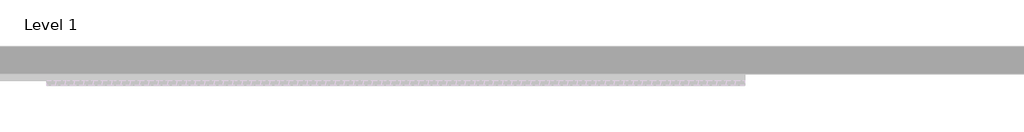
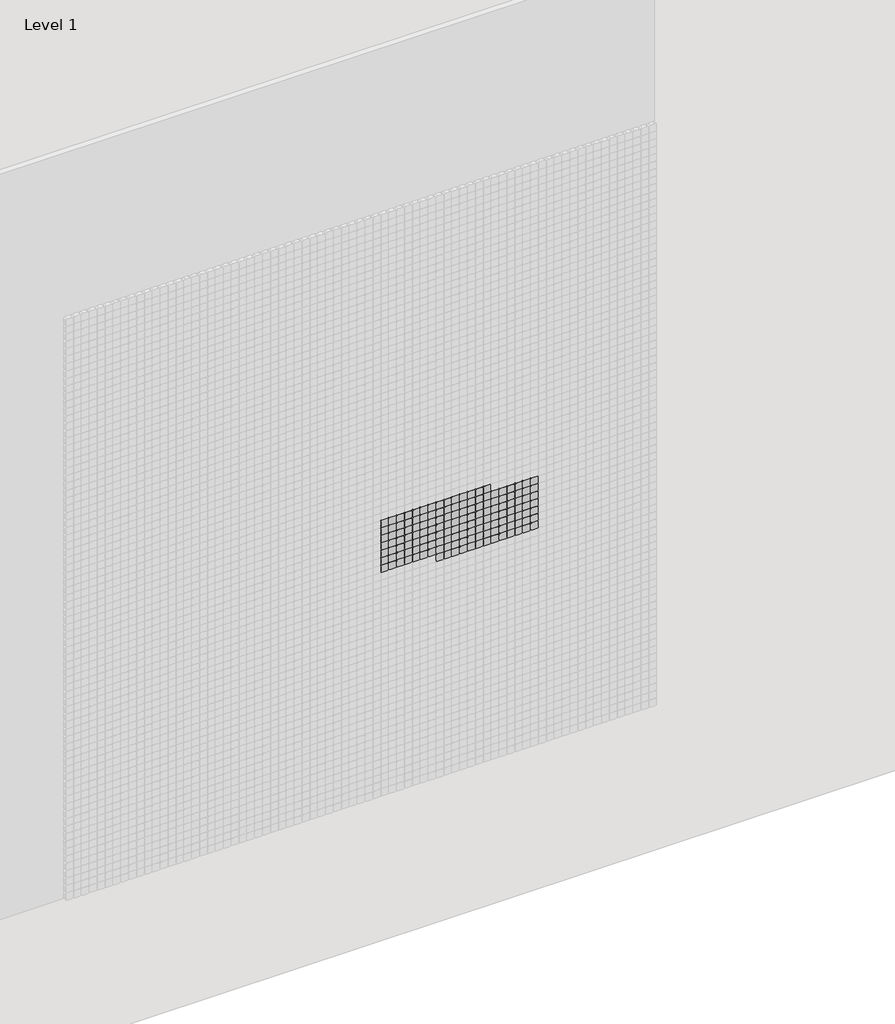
# One storey, part 57 of 71: 147 proxies.
"""IFC4 building model written with IfcOpenShell, lengths in millimetres."""

from ifc_helpers import new_model, si_unit, origin, place, context, project, spatial, transform, mapped, element, save
from components import generic_models_afde289c

model = new_model("IFC4")

# Units and contexts
model_context = context("Model", 3, world=origin())
ifc_project = project(units=[si_unit("LENGTHUNIT", "METRE", prefix="MILLI")], contexts=[model_context])

# Site, building, storey
site = spatial("IfcSite", under=ifc_project)
building = spatial("IfcBuilding", under=site)
storey = spatial("IfcBuildingStorey", under=building, Name="Level 1", Elevation=0.0)

# Proxies
placement = place(None, origin())
generic_models_shape = generic_models_afde289c(model_context)
element("IfcBuildingElementProxy", 1, Name="Pixel_M : Pixel_M", ObjectType="Pixel_M : Pixel_M", at=placement, inside=storey, context=model_context, shape_type="MappedRepresentation", body=[
    mapped(generic_models_shape, transform((8662.4280941, -75.0, 2816.3566215), x_axis=(1.0, 0.0, 0.0), y_axis=(0.0, 0.0, 1.0), z_axis=(0.0, -1.0, 0.0))),
])
element("IfcBuildingElementProxy", 2, Name="Pixel_M : Pixel_M", ObjectType="Pixel_M : Pixel_M", at=placement, inside=storey, context=model_context, shape_type="MappedRepresentation", body=[
    mapped(generic_models_shape, transform((8612.4280941, -75.0, 2816.3566215), x_axis=(1.0, 0.0, 0.0), y_axis=(0.0, 0.0, 1.0), z_axis=(0.0, -1.0, 0.0))),
])
element("IfcBuildingElementProxy", 3, Name="Pixel_M : Pixel_M", ObjectType="Pixel_M : Pixel_M", at=placement, inside=storey, context=model_context, shape_type="MappedRepresentation", body=[
    mapped(generic_models_shape, transform((8562.4280941, -75.0, 2816.3566215), x_axis=(1.0, 0.0, 0.0), y_axis=(0.0, 0.0, 1.0), z_axis=(0.0, -1.0, 0.0))),
])
element("IfcBuildingElementProxy", 4, Name="Pixel_M : Pixel_M", ObjectType="Pixel_M : Pixel_M", at=placement, inside=storey, context=model_context, shape_type="MappedRepresentation", body=[
    mapped(generic_models_shape, transform((8512.4280941, -75.0, 2816.3566215), x_axis=(1.0, 0.0, 0.0), y_axis=(0.0, 0.0, 1.0), z_axis=(0.0, -1.0, 0.0))),
])
element("IfcBuildingElementProxy", 5, Name="Pixel_M : Pixel_M", ObjectType="Pixel_M : Pixel_M", at=placement, inside=storey, context=model_context, shape_type="MappedRepresentation", body=[
    mapped(generic_models_shape, transform((8462.4280941, -75.0, 2816.3566215), x_axis=(1.0, 0.0, 0.0), y_axis=(0.0, 0.0, 1.0), z_axis=(0.0, -1.0, 0.0))),
])
element("IfcBuildingElementProxy", 6, Name="Pixel_M : Pixel_M", ObjectType="Pixel_M : Pixel_M", at=placement, inside=storey, context=model_context, shape_type="MappedRepresentation", body=[
    mapped(generic_models_shape, transform((8412.4280941, -75.0, 2816.3566215), x_axis=(1.0, 0.0, 0.0), y_axis=(0.0, 0.0, 1.0), z_axis=(0.0, -1.0, 0.0))),
])
element("IfcBuildingElementProxy", 7, Name="Pixel_M : Pixel_M", ObjectType="Pixel_M : Pixel_M", at=placement, inside=storey, context=model_context, shape_type="MappedRepresentation", body=[
    mapped(generic_models_shape, transform((8362.4280941, -75.0, 2816.3566215), x_axis=(1.0, 0.0, 0.0), y_axis=(0.0, 0.0, 1.0), z_axis=(0.0, -1.0, 0.0))),
])
element("IfcBuildingElementProxy", 8, Name="Pixel_M : Pixel_M", ObjectType="Pixel_M : Pixel_M", at=placement, inside=storey, context=model_context, shape_type="MappedRepresentation", body=[
    mapped(generic_models_shape, transform((8312.4280941, -75.0, 2816.3566215), x_axis=(1.0, 0.0, 0.0), y_axis=(0.0, 0.0, 1.0), z_axis=(0.0, -1.0, 0.0))),
])
element("IfcBuildingElementProxy", 9, Name="Pixel_M : Pixel_M", ObjectType="Pixel_M : Pixel_M", at=placement, inside=storey, context=model_context, shape_type="MappedRepresentation", body=[
    mapped(generic_models_shape, transform((8262.4280941, -75.0, 2816.3566215), x_axis=(1.0, 0.0, 0.0), y_axis=(0.0, 0.0, 1.0), z_axis=(0.0, -1.0, 0.0))),
])
element("IfcBuildingElementProxy", 10, Name="Pixel_M : Pixel_M", ObjectType="Pixel_M : Pixel_M", at=placement, inside=storey, context=model_context, shape_type="MappedRepresentation", body=[
    mapped(generic_models_shape, transform((8212.4280941, -75.0, 2816.3566215), x_axis=(1.0, 0.0, 0.0), y_axis=(0.0, 0.0, 1.0), z_axis=(0.0, -1.0, 0.0))),
])
element("IfcBuildingElementProxy", 11, Name="Pixel_M : Pixel_M", ObjectType="Pixel_M : Pixel_M", at=placement, inside=storey, context=model_context, shape_type="MappedRepresentation", body=[
    mapped(generic_models_shape, transform((8162.4280941, -75.0, 2816.3566215), x_axis=(1.0, 0.0, 0.0), y_axis=(0.0, 0.0, 1.0), z_axis=(0.0, -1.0, 0.0))),
])
element("IfcBuildingElementProxy", 12, Name="Pixel_M : Pixel_M", ObjectType="Pixel_M : Pixel_M", at=placement, inside=storey, context=model_context, shape_type="MappedRepresentation", body=[
    mapped(generic_models_shape, transform((8112.4280941, -75.0, 2816.3566215), x_axis=(1.0, 0.0, 0.0), y_axis=(0.0, 0.0, 1.0), z_axis=(0.0, -1.0, 0.0))),
])
element("IfcBuildingElementProxy", 13, Name="Pixel_M : Pixel_M", ObjectType="Pixel_M : Pixel_M", at=placement, inside=storey, context=model_context, shape_type="MappedRepresentation", body=[
    mapped(generic_models_shape, transform((8062.4280941, -75.0, 2816.3566215), x_axis=(1.0, 0.0, 0.0), y_axis=(0.0, 0.0, 1.0), z_axis=(0.0, -1.0, 0.0))),
])
element("IfcBuildingElementProxy", 14, Name="Pixel_M : Pixel_M", ObjectType="Pixel_M : Pixel_M", at=placement, inside=storey, context=model_context, shape_type="MappedRepresentation", body=[
    mapped(generic_models_shape, transform((8012.4280941, -75.0, 2816.3566215), x_axis=(1.0, 0.0, 0.0), y_axis=(0.0, 0.0, 1.0), z_axis=(0.0, -1.0, 0.0))),
])
element("IfcBuildingElementProxy", 15, Name="Pixel_M : Pixel_M", ObjectType="Pixel_M : Pixel_M", at=placement, inside=storey, context=model_context, shape_type="MappedRepresentation", body=[
    mapped(generic_models_shape, transform((8962.4280941, -75.0, 2766.3566215), x_axis=(1.0, 0.0, 0.0), y_axis=(0.0, 0.0, 1.0), z_axis=(0.0, -1.0, 0.0))),
])
element("IfcBuildingElementProxy", 16, Name="Pixel_M : Pixel_M", ObjectType="Pixel_M : Pixel_M", at=placement, inside=storey, context=model_context, shape_type="MappedRepresentation", body=[
    mapped(generic_models_shape, transform((8912.4280941, -75.0, 2766.3566215), x_axis=(1.0, 0.0, 0.0), y_axis=(0.0, 0.0, 1.0), z_axis=(0.0, -1.0, 0.0))),
])
element("IfcBuildingElementProxy", 17, Name="Pixel_M : Pixel_M", ObjectType="Pixel_M : Pixel_M", at=placement, inside=storey, context=model_context, shape_type="MappedRepresentation", body=[
    mapped(generic_models_shape, transform((8862.4280941, -75.0, 2766.3566215), x_axis=(1.0, 0.0, 0.0), y_axis=(0.0, 0.0, 1.0), z_axis=(0.0, -1.0, 0.0))),
])
element("IfcBuildingElementProxy", 18, Name="Pixel_M : Pixel_M", ObjectType="Pixel_M : Pixel_M", at=placement, inside=storey, context=model_context, shape_type="MappedRepresentation", body=[
    mapped(generic_models_shape, transform((8812.4280941, -75.0, 2766.3566215), x_axis=(1.0, 0.0, 0.0), y_axis=(0.0, 0.0, 1.0), z_axis=(0.0, -1.0, 0.0))),
])
element("IfcBuildingElementProxy", 19, Name="Pixel_M : Pixel_M", ObjectType="Pixel_M : Pixel_M", at=placement, inside=storey, context=model_context, shape_type="MappedRepresentation", body=[
    mapped(generic_models_shape, transform((8762.4280941, -75.0, 2766.3566215), x_axis=(1.0, 0.0, 0.0), y_axis=(0.0, 0.0, 1.0), z_axis=(0.0, -1.0, 0.0))),
])
element("IfcBuildingElementProxy", 20, Name="Pixel_M : Pixel_M", ObjectType="Pixel_M : Pixel_M", at=placement, inside=storey, context=model_context, shape_type="MappedRepresentation", body=[
    mapped(generic_models_shape, transform((8712.4280941, -75.0, 2766.3566215), x_axis=(1.0, 0.0, 0.0), y_axis=(0.0, 0.0, 1.0), z_axis=(0.0, -1.0, 0.0))),
])
element("IfcBuildingElementProxy", 21, Name="Pixel_M : Pixel_M", ObjectType="Pixel_M : Pixel_M", at=placement, inside=storey, context=model_context, shape_type="MappedRepresentation", body=[
    mapped(generic_models_shape, transform((8662.4280941, -75.0, 2766.3566215), x_axis=(1.0, 0.0, 0.0), y_axis=(0.0, 0.0, 1.0), z_axis=(0.0, -1.0, 0.0))),
])
element("IfcBuildingElementProxy", 22, Name="Pixel_M : Pixel_M", ObjectType="Pixel_M : Pixel_M", at=placement, inside=storey, context=model_context, shape_type="MappedRepresentation", body=[
    mapped(generic_models_shape, transform((8612.4280941, -75.0, 2766.3566215), x_axis=(1.0, 0.0, 0.0), y_axis=(0.0, 0.0, 1.0), z_axis=(0.0, -1.0, 0.0))),
])
element("IfcBuildingElementProxy", 23, Name="Pixel_M : Pixel_M", ObjectType="Pixel_M : Pixel_M", at=placement, inside=storey, context=model_context, shape_type="MappedRepresentation", body=[
    mapped(generic_models_shape, transform((8562.4280941, -75.0, 2766.3566215), x_axis=(1.0, 0.0, 0.0), y_axis=(0.0, 0.0, 1.0), z_axis=(0.0, -1.0, 0.0))),
])
element("IfcBuildingElementProxy", 24, Name="Pixel_M : Pixel_M", ObjectType="Pixel_M : Pixel_M", at=placement, inside=storey, context=model_context, shape_type="MappedRepresentation", body=[
    mapped(generic_models_shape, transform((8512.4280941, -75.0, 2766.3566215), x_axis=(1.0, 0.0, 0.0), y_axis=(0.0, 0.0, 1.0), z_axis=(0.0, -1.0, 0.0))),
])
element("IfcBuildingElementProxy", 25, Name="Pixel_M : Pixel_M", ObjectType="Pixel_M : Pixel_M", at=placement, inside=storey, context=model_context, shape_type="MappedRepresentation", body=[
    mapped(generic_models_shape, transform((8462.4280941, -75.0, 2766.3566215), x_axis=(1.0, 0.0, 0.0), y_axis=(0.0, 0.0, 1.0), z_axis=(0.0, -1.0, 0.0))),
])
element("IfcBuildingElementProxy", 26, Name="Pixel_M : Pixel_M", ObjectType="Pixel_M : Pixel_M", at=placement, inside=storey, context=model_context, shape_type="MappedRepresentation", body=[
    mapped(generic_models_shape, transform((8412.4280941, -75.0, 2766.3566215), x_axis=(1.0, 0.0, 0.0), y_axis=(0.0, 0.0, 1.0), z_axis=(0.0, -1.0, 0.0))),
])
element("IfcBuildingElementProxy", 27, Name="Pixel_M : Pixel_M", ObjectType="Pixel_M : Pixel_M", at=placement, inside=storey, context=model_context, shape_type="MappedRepresentation", body=[
    mapped(generic_models_shape, transform((8362.4280941, -75.0, 2766.3566215), x_axis=(1.0, 0.0, 0.0), y_axis=(0.0, 0.0, 1.0), z_axis=(0.0, -1.0, 0.0))),
])
element("IfcBuildingElementProxy", 28, Name="Pixel_M : Pixel_M", ObjectType="Pixel_M : Pixel_M", at=placement, inside=storey, context=model_context, shape_type="MappedRepresentation", body=[
    mapped(generic_models_shape, transform((8312.4280941, -75.0, 2766.3566215), x_axis=(1.0, 0.0, 0.0), y_axis=(0.0, 0.0, 1.0), z_axis=(0.0, -1.0, 0.0))),
])
element("IfcBuildingElementProxy", 29, Name="Pixel_M : Pixel_M", ObjectType="Pixel_M : Pixel_M", at=placement, inside=storey, context=model_context, shape_type="MappedRepresentation", body=[
    mapped(generic_models_shape, transform((8262.4280941, -75.0, 2766.3566215), x_axis=(1.0, 0.0, 0.0), y_axis=(0.0, 0.0, 1.0), z_axis=(0.0, -1.0, 0.0))),
])
element("IfcBuildingElementProxy", 30, Name="Pixel_M : Pixel_M", ObjectType="Pixel_M : Pixel_M", at=placement, inside=storey, context=model_context, shape_type="MappedRepresentation", body=[
    mapped(generic_models_shape, transform((8212.4280941, -75.0, 2766.3566215), x_axis=(1.0, 0.0, 0.0), y_axis=(0.0, 0.0, 1.0), z_axis=(0.0, -1.0, 0.0))),
])
element("IfcBuildingElementProxy", 31, Name="Pixel_M : Pixel_M", ObjectType="Pixel_M : Pixel_M", at=placement, inside=storey, context=model_context, shape_type="MappedRepresentation", body=[
    mapped(generic_models_shape, transform((8162.4280941, -75.0, 2766.3566215), x_axis=(1.0, 0.0, 0.0), y_axis=(0.0, 0.0, 1.0), z_axis=(0.0, -1.0, 0.0))),
])
element("IfcBuildingElementProxy", 32, Name="Pixel_M : Pixel_M", ObjectType="Pixel_M : Pixel_M", at=placement, inside=storey, context=model_context, shape_type="MappedRepresentation", body=[
    mapped(generic_models_shape, transform((8112.4280941, -75.0, 2766.3566215), x_axis=(1.0, 0.0, 0.0), y_axis=(0.0, 0.0, 1.0), z_axis=(0.0, -1.0, 0.0))),
])
element("IfcBuildingElementProxy", 33, Name="Pixel_M : Pixel_M", ObjectType="Pixel_M : Pixel_M", at=placement, inside=storey, context=model_context, shape_type="MappedRepresentation", body=[
    mapped(generic_models_shape, transform((8062.4280941, -75.0, 2766.3566215), x_axis=(1.0, 0.0, 0.0), y_axis=(0.0, 0.0, 1.0), z_axis=(0.0, -1.0, 0.0))),
])
element("IfcBuildingElementProxy", 34, Name="Pixel_M : Pixel_M", ObjectType="Pixel_M : Pixel_M", at=placement, inside=storey, context=model_context, shape_type="MappedRepresentation", body=[
    mapped(generic_models_shape, transform((8012.4280941, -75.0, 2766.3566215), x_axis=(1.0, 0.0, 0.0), y_axis=(0.0, 0.0, 1.0), z_axis=(0.0, -1.0, 0.0))),
])
element("IfcBuildingElementProxy", 35, Name="Pixel_M : Pixel_M", ObjectType="Pixel_M : Pixel_M", at=placement, inside=storey, context=model_context, shape_type="MappedRepresentation", body=[
    mapped(generic_models_shape, transform((8962.4280941, -75.0, 2716.3566215), x_axis=(1.0, 0.0, 0.0), y_axis=(0.0, 0.0, 1.0), z_axis=(0.0, -1.0, 0.0))),
])
element("IfcBuildingElementProxy", 36, Name="Pixel_M : Pixel_M", ObjectType="Pixel_M : Pixel_M", at=placement, inside=storey, context=model_context, shape_type="MappedRepresentation", body=[
    mapped(generic_models_shape, transform((8912.4280941, -75.0, 2716.3566215), x_axis=(1.0, 0.0, 0.0), y_axis=(0.0, 0.0, 1.0), z_axis=(0.0, -1.0, 0.0))),
])
element("IfcBuildingElementProxy", 37, Name="Pixel_M : Pixel_M", ObjectType="Pixel_M : Pixel_M", at=placement, inside=storey, context=model_context, shape_type="MappedRepresentation", body=[
    mapped(generic_models_shape, transform((8862.4280941, -75.0, 2716.3566215), x_axis=(1.0, 0.0, 0.0), y_axis=(0.0, 0.0, 1.0), z_axis=(0.0, -1.0, 0.0))),
])
element("IfcBuildingElementProxy", 38, Name="Pixel_M : Pixel_M", ObjectType="Pixel_M : Pixel_M", at=placement, inside=storey, context=model_context, shape_type="MappedRepresentation", body=[
    mapped(generic_models_shape, transform((8812.4280941, -75.0, 2716.3566215), x_axis=(1.0, 0.0, 0.0), y_axis=(0.0, 0.0, 1.0), z_axis=(0.0, -1.0, 0.0))),
])
element("IfcBuildingElementProxy", 39, Name="Pixel_M : Pixel_M", ObjectType="Pixel_M : Pixel_M", at=placement, inside=storey, context=model_context, shape_type="MappedRepresentation", body=[
    mapped(generic_models_shape, transform((8762.4280941, -75.0, 2716.3566215), x_axis=(1.0, 0.0, 0.0), y_axis=(0.0, 0.0, 1.0), z_axis=(0.0, -1.0, 0.0))),
])
element("IfcBuildingElementProxy", 40, Name="Pixel_M : Pixel_M", ObjectType="Pixel_M : Pixel_M", at=placement, inside=storey, context=model_context, shape_type="MappedRepresentation", body=[
    mapped(generic_models_shape, transform((8712.4280941, -75.0, 2716.3566215), x_axis=(1.0, 0.0, 0.0), y_axis=(0.0, 0.0, 1.0), z_axis=(0.0, -1.0, 0.0))),
])
element("IfcBuildingElementProxy", 41, Name="Pixel_M : Pixel_M", ObjectType="Pixel_M : Pixel_M", at=placement, inside=storey, context=model_context, shape_type="MappedRepresentation", body=[
    mapped(generic_models_shape, transform((8662.4280941, -75.0, 2716.3566215), x_axis=(1.0, 0.0, 0.0), y_axis=(0.0, 0.0, 1.0), z_axis=(0.0, -1.0, 0.0))),
])
element("IfcBuildingElementProxy", 42, Name="Pixel_M : Pixel_M", ObjectType="Pixel_M : Pixel_M", at=placement, inside=storey, context=model_context, shape_type="MappedRepresentation", body=[
    mapped(generic_models_shape, transform((8612.4280941, -75.0, 2716.3566215), x_axis=(1.0, 0.0, 0.0), y_axis=(0.0, 0.0, 1.0), z_axis=(0.0, -1.0, 0.0))),
])
element("IfcBuildingElementProxy", 43, Name="Pixel_M : Pixel_M", ObjectType="Pixel_M : Pixel_M", at=placement, inside=storey, context=model_context, shape_type="MappedRepresentation", body=[
    mapped(generic_models_shape, transform((8562.4280941, -75.0, 2716.3566215), x_axis=(1.0, 0.0, 0.0), y_axis=(0.0, 0.0, 1.0), z_axis=(0.0, -1.0, 0.0))),
])
element("IfcBuildingElementProxy", 44, Name="Pixel_M : Pixel_M", ObjectType="Pixel_M : Pixel_M", at=placement, inside=storey, context=model_context, shape_type="MappedRepresentation", body=[
    mapped(generic_models_shape, transform((8512.4280941, -75.0, 2716.3566215), x_axis=(1.0, 0.0, 0.0), y_axis=(0.0, 0.0, 1.0), z_axis=(0.0, -1.0, 0.0))),
])
element("IfcBuildingElementProxy", 45, Name="Pixel_M : Pixel_M", ObjectType="Pixel_M : Pixel_M", at=placement, inside=storey, context=model_context, shape_type="MappedRepresentation", body=[
    mapped(generic_models_shape, transform((8462.4280941, -75.0, 2716.3566215), x_axis=(1.0, 0.0, 0.0), y_axis=(0.0, 0.0, 1.0), z_axis=(0.0, -1.0, 0.0))),
])
element("IfcBuildingElementProxy", 46, Name="Pixel_M : Pixel_M", ObjectType="Pixel_M : Pixel_M", at=placement, inside=storey, context=model_context, shape_type="MappedRepresentation", body=[
    mapped(generic_models_shape, transform((8412.4280941, -75.0, 2716.3566215), x_axis=(1.0, 0.0, 0.0), y_axis=(0.0, 0.0, 1.0), z_axis=(0.0, -1.0, 0.0))),
])
element("IfcBuildingElementProxy", 47, Name="Pixel_M : Pixel_M", ObjectType="Pixel_M : Pixel_M", at=placement, inside=storey, context=model_context, shape_type="MappedRepresentation", body=[
    mapped(generic_models_shape, transform((8362.4280941, -75.0, 2716.3566215), x_axis=(1.0, 0.0, 0.0), y_axis=(0.0, 0.0, 1.0), z_axis=(0.0, -1.0, 0.0))),
])
element("IfcBuildingElementProxy", 48, Name="Pixel_M : Pixel_M", ObjectType="Pixel_M : Pixel_M", at=placement, inside=storey, context=model_context, shape_type="MappedRepresentation", body=[
    mapped(generic_models_shape, transform((8312.4280941, -75.0, 2716.3566215), x_axis=(1.0, 0.0, 0.0), y_axis=(0.0, 0.0, 1.0), z_axis=(0.0, -1.0, 0.0))),
])
element("IfcBuildingElementProxy", 49, Name="Pixel_M : Pixel_M", ObjectType="Pixel_M : Pixel_M", at=placement, inside=storey, context=model_context, shape_type="MappedRepresentation", body=[
    mapped(generic_models_shape, transform((8262.4280941, -75.0, 2716.3566215), x_axis=(1.0, 0.0, 0.0), y_axis=(0.0, 0.0, 1.0), z_axis=(0.0, -1.0, 0.0))),
])
element("IfcBuildingElementProxy", 50, Name="Pixel_M : Pixel_M", ObjectType="Pixel_M : Pixel_M", at=placement, inside=storey, context=model_context, shape_type="MappedRepresentation", body=[
    mapped(generic_models_shape, transform((8212.4280941, -75.0, 2716.3566215), x_axis=(1.0, 0.0, 0.0), y_axis=(0.0, 0.0, 1.0), z_axis=(0.0, -1.0, 0.0))),
])
element("IfcBuildingElementProxy", 51, Name="Pixel_M : Pixel_M", ObjectType="Pixel_M : Pixel_M", at=placement, inside=storey, context=model_context, shape_type="MappedRepresentation", body=[
    mapped(generic_models_shape, transform((8162.4280941, -75.0, 2716.3566215), x_axis=(1.0, 0.0, 0.0), y_axis=(0.0, 0.0, 1.0), z_axis=(0.0, -1.0, 0.0))),
])
element("IfcBuildingElementProxy", 52, Name="Pixel_M : Pixel_M", ObjectType="Pixel_M : Pixel_M", at=placement, inside=storey, context=model_context, shape_type="MappedRepresentation", body=[
    mapped(generic_models_shape, transform((8112.4280941, -75.0, 2716.3566215), x_axis=(1.0, 0.0, 0.0), y_axis=(0.0, 0.0, 1.0), z_axis=(0.0, -1.0, 0.0))),
])
element("IfcBuildingElementProxy", 53, Name="Pixel_M : Pixel_M", ObjectType="Pixel_M : Pixel_M", at=placement, inside=storey, context=model_context, shape_type="MappedRepresentation", body=[
    mapped(generic_models_shape, transform((8062.4280941, -75.0, 2716.3566215), x_axis=(1.0, 0.0, 0.0), y_axis=(0.0, 0.0, 1.0), z_axis=(0.0, -1.0, 0.0))),
])
element("IfcBuildingElementProxy", 54, Name="Pixel_M : Pixel_M", ObjectType="Pixel_M : Pixel_M", at=placement, inside=storey, context=model_context, shape_type="MappedRepresentation", body=[
    mapped(generic_models_shape, transform((8012.4280941, -75.0, 2716.3566215), x_axis=(1.0, 0.0, 0.0), y_axis=(0.0, 0.0, 1.0), z_axis=(0.0, -1.0, 0.0))),
])
element("IfcBuildingElementProxy", 55, Name="Pixel_M : Pixel_M", ObjectType="Pixel_M : Pixel_M", at=placement, inside=storey, context=model_context, shape_type="MappedRepresentation", body=[
    mapped(generic_models_shape, transform((8962.4280941, -75.0, 2666.3566215), x_axis=(1.0, 0.0, 0.0), y_axis=(0.0, 0.0, 1.0), z_axis=(0.0, -1.0, 0.0))),
])
element("IfcBuildingElementProxy", 56, Name="Pixel_M : Pixel_M", ObjectType="Pixel_M : Pixel_M", at=placement, inside=storey, context=model_context, shape_type="MappedRepresentation", body=[
    mapped(generic_models_shape, transform((8912.4280941, -75.0, 2666.3566215), x_axis=(1.0, 0.0, 0.0), y_axis=(0.0, 0.0, 1.0), z_axis=(0.0, -1.0, 0.0))),
])
element("IfcBuildingElementProxy", 57, Name="Pixel_M : Pixel_M", ObjectType="Pixel_M : Pixel_M", at=placement, inside=storey, context=model_context, shape_type="MappedRepresentation", body=[
    mapped(generic_models_shape, transform((8862.4280941, -75.0, 2666.3566215), x_axis=(1.0, 0.0, 0.0), y_axis=(0.0, 0.0, 1.0), z_axis=(0.0, -1.0, 0.0))),
])
element("IfcBuildingElementProxy", 58, Name="Pixel_M : Pixel_M", ObjectType="Pixel_M : Pixel_M", at=placement, inside=storey, context=model_context, shape_type="MappedRepresentation", body=[
    mapped(generic_models_shape, transform((8812.4280941, -75.0, 2666.3566215), x_axis=(1.0, 0.0, 0.0), y_axis=(0.0, 0.0, 1.0), z_axis=(0.0, -1.0, 0.0))),
])
element("IfcBuildingElementProxy", 59, Name="Pixel_M : Pixel_M", ObjectType="Pixel_M : Pixel_M", at=placement, inside=storey, context=model_context, shape_type="MappedRepresentation", body=[
    mapped(generic_models_shape, transform((8762.4280941, -75.0, 2666.3566215), x_axis=(1.0, 0.0, 0.0), y_axis=(0.0, 0.0, 1.0), z_axis=(0.0, -1.0, 0.0))),
])
element("IfcBuildingElementProxy", 60, Name="Pixel_M : Pixel_M", ObjectType="Pixel_M : Pixel_M", at=placement, inside=storey, context=model_context, shape_type="MappedRepresentation", body=[
    mapped(generic_models_shape, transform((8712.4280941, -75.0, 2666.3566215), x_axis=(1.0, 0.0, 0.0), y_axis=(0.0, 0.0, 1.0), z_axis=(0.0, -1.0, 0.0))),
])
element("IfcBuildingElementProxy", 61, Name="Pixel_M : Pixel_M", ObjectType="Pixel_M : Pixel_M", at=placement, inside=storey, context=model_context, shape_type="MappedRepresentation", body=[
    mapped(generic_models_shape, transform((8662.4280941, -75.0, 2666.3566215), x_axis=(1.0, 0.0, 0.0), y_axis=(0.0, 0.0, 1.0), z_axis=(0.0, -1.0, 0.0))),
])
element("IfcBuildingElementProxy", 62, Name="Pixel_M : Pixel_M", ObjectType="Pixel_M : Pixel_M", at=placement, inside=storey, context=model_context, shape_type="MappedRepresentation", body=[
    mapped(generic_models_shape, transform((8612.4280941, -75.0, 2666.3566215), x_axis=(1.0, 0.0, 0.0), y_axis=(0.0, 0.0, 1.0), z_axis=(0.0, -1.0, 0.0))),
])
element("IfcBuildingElementProxy", 63, Name="Pixel_M : Pixel_M", ObjectType="Pixel_M : Pixel_M", at=placement, inside=storey, context=model_context, shape_type="MappedRepresentation", body=[
    mapped(generic_models_shape, transform((8562.4280941, -75.0, 2666.3566215), x_axis=(1.0, 0.0, 0.0), y_axis=(0.0, 0.0, 1.0), z_axis=(0.0, -1.0, 0.0))),
])
element("IfcBuildingElementProxy", 64, Name="Pixel_M : Pixel_M", ObjectType="Pixel_M : Pixel_M", at=placement, inside=storey, context=model_context, shape_type="MappedRepresentation", body=[
    mapped(generic_models_shape, transform((8512.4280941, -75.0, 2666.3566215), x_axis=(1.0, 0.0, 0.0), y_axis=(0.0, 0.0, 1.0), z_axis=(0.0, -1.0, 0.0))),
])
element("IfcBuildingElementProxy", 65, Name="Pixel_M : Pixel_M", ObjectType="Pixel_M : Pixel_M", at=placement, inside=storey, context=model_context, shape_type="MappedRepresentation", body=[
    mapped(generic_models_shape, transform((8462.4280941, -75.0, 2666.3566215), x_axis=(1.0, 0.0, 0.0), y_axis=(0.0, 0.0, 1.0), z_axis=(0.0, -1.0, 0.0))),
])
element("IfcBuildingElementProxy", 66, Name="Pixel_M : Pixel_M", ObjectType="Pixel_M : Pixel_M", at=placement, inside=storey, context=model_context, shape_type="MappedRepresentation", body=[
    mapped(generic_models_shape, transform((8412.4280941, -75.0, 2666.3566215), x_axis=(1.0, 0.0, 0.0), y_axis=(0.0, 0.0, 1.0), z_axis=(0.0, -1.0, 0.0))),
])
element("IfcBuildingElementProxy", 67, Name="Pixel_M : Pixel_M", ObjectType="Pixel_M : Pixel_M", at=placement, inside=storey, context=model_context, shape_type="MappedRepresentation", body=[
    mapped(generic_models_shape, transform((8362.4280941, -75.0, 2666.3566215), x_axis=(1.0, 0.0, 0.0), y_axis=(0.0, 0.0, 1.0), z_axis=(0.0, -1.0, 0.0))),
])
element("IfcBuildingElementProxy", 68, Name="Pixel_M : Pixel_M", ObjectType="Pixel_M : Pixel_M", at=placement, inside=storey, context=model_context, shape_type="MappedRepresentation", body=[
    mapped(generic_models_shape, transform((8312.4280941, -75.0, 2666.3566215), x_axis=(1.0, 0.0, 0.0), y_axis=(0.0, 0.0, 1.0), z_axis=(0.0, -1.0, 0.0))),
])
element("IfcBuildingElementProxy", 69, Name="Pixel_M : Pixel_M", ObjectType="Pixel_M : Pixel_M", at=placement, inside=storey, context=model_context, shape_type="MappedRepresentation", body=[
    mapped(generic_models_shape, transform((8262.4280941, -75.0, 2666.3566215), x_axis=(1.0, 0.0, 0.0), y_axis=(0.0, 0.0, 1.0), z_axis=(0.0, -1.0, 0.0))),
])
element("IfcBuildingElementProxy", 70, Name="Pixel_M : Pixel_M", ObjectType="Pixel_M : Pixel_M", at=placement, inside=storey, context=model_context, shape_type="MappedRepresentation", body=[
    mapped(generic_models_shape, transform((8212.4280941, -75.0, 2666.3566215), x_axis=(1.0, 0.0, 0.0), y_axis=(0.0, 0.0, 1.0), z_axis=(0.0, -1.0, 0.0))),
])
element("IfcBuildingElementProxy", 71, Name="Pixel_M : Pixel_M", ObjectType="Pixel_M : Pixel_M", at=placement, inside=storey, context=model_context, shape_type="MappedRepresentation", body=[
    mapped(generic_models_shape, transform((8162.4280941, -75.0, 2666.3566215), x_axis=(1.0, 0.0, 0.0), y_axis=(0.0, 0.0, 1.0), z_axis=(0.0, -1.0, 0.0))),
])
element("IfcBuildingElementProxy", 72, Name="Pixel_M : Pixel_M", ObjectType="Pixel_M : Pixel_M", at=placement, inside=storey, context=model_context, shape_type="MappedRepresentation", body=[
    mapped(generic_models_shape, transform((8112.4280941, -75.0, 2666.3566215), x_axis=(1.0, 0.0, 0.0), y_axis=(0.0, 0.0, 1.0), z_axis=(0.0, -1.0, 0.0))),
])
element("IfcBuildingElementProxy", 73, Name="Pixel_M : Pixel_M", ObjectType="Pixel_M : Pixel_M", at=placement, inside=storey, context=model_context, shape_type="MappedRepresentation", body=[
    mapped(generic_models_shape, transform((8062.4280941, -75.0, 2666.3566215), x_axis=(1.0, 0.0, 0.0), y_axis=(0.0, 0.0, 1.0), z_axis=(0.0, -1.0, 0.0))),
])
element("IfcBuildingElementProxy", 74, Name="Pixel_M : Pixel_M", ObjectType="Pixel_M : Pixel_M", at=placement, inside=storey, context=model_context, shape_type="MappedRepresentation", body=[
    mapped(generic_models_shape, transform((8012.4280941, -75.0, 2666.3566215), x_axis=(1.0, 0.0, 0.0), y_axis=(0.0, 0.0, 1.0), z_axis=(0.0, -1.0, 0.0))),
])
element("IfcBuildingElementProxy", 75, Name="Pixel_M : Pixel_M", ObjectType="Pixel_M : Pixel_M", at=placement, inside=storey, context=model_context, shape_type="MappedRepresentation", body=[
    mapped(generic_models_shape, transform((8962.4280941, -75.0, 2616.3566215), x_axis=(1.0, 0.0, 0.0), y_axis=(0.0, 0.0, 1.0), z_axis=(0.0, -1.0, 0.0))),
])
element("IfcBuildingElementProxy", 76, Name="Pixel_M : Pixel_M", ObjectType="Pixel_M : Pixel_M", at=placement, inside=storey, context=model_context, shape_type="MappedRepresentation", body=[
    mapped(generic_models_shape, transform((8912.4280941, -75.0, 2616.3566215), x_axis=(1.0, 0.0, 0.0), y_axis=(0.0, 0.0, 1.0), z_axis=(0.0, -1.0, 0.0))),
])
element("IfcBuildingElementProxy", 77, Name="Pixel_M : Pixel_M", ObjectType="Pixel_M : Pixel_M", at=placement, inside=storey, context=model_context, shape_type="MappedRepresentation", body=[
    mapped(generic_models_shape, transform((8862.4280941, -75.0, 2616.3566215), x_axis=(1.0, 0.0, 0.0), y_axis=(0.0, 0.0, 1.0), z_axis=(0.0, -1.0, 0.0))),
])
element("IfcBuildingElementProxy", 78, Name="Pixel_M : Pixel_M", ObjectType="Pixel_M : Pixel_M", at=placement, inside=storey, context=model_context, shape_type="MappedRepresentation", body=[
    mapped(generic_models_shape, transform((8812.4280941, -75.0, 2616.3566215), x_axis=(1.0, 0.0, 0.0), y_axis=(0.0, 0.0, 1.0), z_axis=(0.0, -1.0, 0.0))),
])
element("IfcBuildingElementProxy", 79, Name="Pixel_M : Pixel_M", ObjectType="Pixel_M : Pixel_M", at=placement, inside=storey, context=model_context, shape_type="MappedRepresentation", body=[
    mapped(generic_models_shape, transform((8762.4280941, -75.0, 2616.3566215), x_axis=(1.0, 0.0, 0.0), y_axis=(0.0, 0.0, 1.0), z_axis=(0.0, -1.0, 0.0))),
])
element("IfcBuildingElementProxy", 80, Name="Pixel_M : Pixel_M", ObjectType="Pixel_M : Pixel_M", at=placement, inside=storey, context=model_context, shape_type="MappedRepresentation", body=[
    mapped(generic_models_shape, transform((8712.4280941, -75.0, 2616.3566215), x_axis=(1.0, 0.0, 0.0), y_axis=(0.0, 0.0, 1.0), z_axis=(0.0, -1.0, 0.0))),
])
element("IfcBuildingElementProxy", 81, Name="Pixel_M : Pixel_M", ObjectType="Pixel_M : Pixel_M", at=placement, inside=storey, context=model_context, shape_type="MappedRepresentation", body=[
    mapped(generic_models_shape, transform((8662.4280941, -75.0, 2616.3566215), x_axis=(1.0, 0.0, 0.0), y_axis=(0.0, 0.0, 1.0), z_axis=(0.0, -1.0, 0.0))),
])
element("IfcBuildingElementProxy", 82, Name="Pixel_M : Pixel_M", ObjectType="Pixel_M : Pixel_M", at=placement, inside=storey, context=model_context, shape_type="MappedRepresentation", body=[
    mapped(generic_models_shape, transform((8612.4280941, -75.0, 2616.3566215), x_axis=(1.0, 0.0, 0.0), y_axis=(0.0, 0.0, 1.0), z_axis=(0.0, -1.0, 0.0))),
])
element("IfcBuildingElementProxy", 83, Name="Pixel_M : Pixel_M", ObjectType="Pixel_M : Pixel_M", at=placement, inside=storey, context=model_context, shape_type="MappedRepresentation", body=[
    mapped(generic_models_shape, transform((8562.4280941, -75.0, 2616.3566215), x_axis=(1.0, 0.0, 0.0), y_axis=(0.0, 0.0, 1.0), z_axis=(0.0, -1.0, 0.0))),
])
element("IfcBuildingElementProxy", 84, Name="Pixel_M : Pixel_M", ObjectType="Pixel_M : Pixel_M", at=placement, inside=storey, context=model_context, shape_type="MappedRepresentation", body=[
    mapped(generic_models_shape, transform((8512.4280941, -75.0, 2616.3566215), x_axis=(1.0, 0.0, 0.0), y_axis=(0.0, 0.0, 1.0), z_axis=(0.0, -1.0, 0.0))),
])
element("IfcBuildingElementProxy", 85, Name="Pixel_M : Pixel_M", ObjectType="Pixel_M : Pixel_M", at=placement, inside=storey, context=model_context, shape_type="MappedRepresentation", body=[
    mapped(generic_models_shape, transform((8462.4280941, -75.0, 2616.3566215), x_axis=(1.0, 0.0, 0.0), y_axis=(0.0, 0.0, 1.0), z_axis=(0.0, -1.0, 0.0))),
])
element("IfcBuildingElementProxy", 86, Name="Pixel_M : Pixel_M", ObjectType="Pixel_M : Pixel_M", at=placement, inside=storey, context=model_context, shape_type="MappedRepresentation", body=[
    mapped(generic_models_shape, transform((8412.4280941, -75.0, 2616.3566215), x_axis=(1.0, 0.0, 0.0), y_axis=(0.0, 0.0, 1.0), z_axis=(0.0, -1.0, 0.0))),
])
element("IfcBuildingElementProxy", 87, Name="Pixel_M : Pixel_M", ObjectType="Pixel_M : Pixel_M", at=placement, inside=storey, context=model_context, shape_type="MappedRepresentation", body=[
    mapped(generic_models_shape, transform((8362.4280941, -75.0, 2616.3566215), x_axis=(1.0, 0.0, 0.0), y_axis=(0.0, 0.0, 1.0), z_axis=(0.0, -1.0, 0.0))),
])
element("IfcBuildingElementProxy", 88, Name="Pixel_M : Pixel_M", ObjectType="Pixel_M : Pixel_M", at=placement, inside=storey, context=model_context, shape_type="MappedRepresentation", body=[
    mapped(generic_models_shape, transform((8312.4280941, -75.0, 2616.3566215), x_axis=(1.0, 0.0, 0.0), y_axis=(0.0, 0.0, 1.0), z_axis=(0.0, -1.0, 0.0))),
])
element("IfcBuildingElementProxy", 89, Name="Pixel_M : Pixel_M", ObjectType="Pixel_M : Pixel_M", at=placement, inside=storey, context=model_context, shape_type="MappedRepresentation", body=[
    mapped(generic_models_shape, transform((8262.4280941, -75.0, 2616.3566215), x_axis=(1.0, 0.0, 0.0), y_axis=(0.0, 0.0, 1.0), z_axis=(0.0, -1.0, 0.0))),
])
element("IfcBuildingElementProxy", 90, Name="Pixel_M : Pixel_M", ObjectType="Pixel_M : Pixel_M", at=placement, inside=storey, context=model_context, shape_type="MappedRepresentation", body=[
    mapped(generic_models_shape, transform((8212.4280941, -75.0, 2616.3566215), x_axis=(1.0, 0.0, 0.0), y_axis=(0.0, 0.0, 1.0), z_axis=(0.0, -1.0, 0.0))),
])
element("IfcBuildingElementProxy", 91, Name="Pixel_M : Pixel_M", ObjectType="Pixel_M : Pixel_M", at=placement, inside=storey, context=model_context, shape_type="MappedRepresentation", body=[
    mapped(generic_models_shape, transform((8162.4280941, -75.0, 2616.3566215), x_axis=(1.0, 0.0, 0.0), y_axis=(0.0, 0.0, 1.0), z_axis=(0.0, -1.0, 0.0))),
])
element("IfcBuildingElementProxy", 92, Name="Pixel_M : Pixel_M", ObjectType="Pixel_M : Pixel_M", at=placement, inside=storey, context=model_context, shape_type="MappedRepresentation", body=[
    mapped(generic_models_shape, transform((8112.4280941, -75.0, 2616.3566215), x_axis=(1.0, 0.0, 0.0), y_axis=(0.0, 0.0, 1.0), z_axis=(0.0, -1.0, 0.0))),
])
element("IfcBuildingElementProxy", 93, Name="Pixel_M : Pixel_M", ObjectType="Pixel_M : Pixel_M", at=placement, inside=storey, context=model_context, shape_type="MappedRepresentation", body=[
    mapped(generic_models_shape, transform((8062.4280941, -75.0, 2616.3566215), x_axis=(1.0, 0.0, 0.0), y_axis=(0.0, 0.0, 1.0), z_axis=(0.0, -1.0, 0.0))),
])
element("IfcBuildingElementProxy", 94, Name="Pixel_M : Pixel_M", ObjectType="Pixel_M : Pixel_M", at=placement, inside=storey, context=model_context, shape_type="MappedRepresentation", body=[
    mapped(generic_models_shape, transform((8012.4280941, -75.0, 2616.3566215), x_axis=(1.0, 0.0, 0.0), y_axis=(0.0, 0.0, 1.0), z_axis=(0.0, -1.0, 0.0))),
])
element("IfcBuildingElementProxy", 95, Name="Pixel_M : Pixel_M", ObjectType="Pixel_M : Pixel_M", at=placement, inside=storey, context=model_context, shape_type="MappedRepresentation", body=[
    mapped(generic_models_shape, transform((8962.4280941, -75.0, 2566.3566215), x_axis=(1.0, 0.0, 0.0), y_axis=(0.0, 0.0, 1.0), z_axis=(0.0, -1.0, 0.0))),
])
element("IfcBuildingElementProxy", 96, Name="Pixel_M : Pixel_M", ObjectType="Pixel_M : Pixel_M", at=placement, inside=storey, context=model_context, shape_type="MappedRepresentation", body=[
    mapped(generic_models_shape, transform((8912.4280941, -75.0, 2566.3566215), x_axis=(1.0, 0.0, 0.0), y_axis=(0.0, 0.0, 1.0), z_axis=(0.0, -1.0, 0.0))),
])
element("IfcBuildingElementProxy", 97, Name="Pixel_M : Pixel_M", ObjectType="Pixel_M : Pixel_M", at=placement, inside=storey, context=model_context, shape_type="MappedRepresentation", body=[
    mapped(generic_models_shape, transform((8862.4280941, -75.0, 2566.3566215), x_axis=(1.0, 0.0, 0.0), y_axis=(0.0, 0.0, 1.0), z_axis=(0.0, -1.0, 0.0))),
])
element("IfcBuildingElementProxy", 98, Name="Pixel_M : Pixel_M", ObjectType="Pixel_M : Pixel_M", at=placement, inside=storey, context=model_context, shape_type="MappedRepresentation", body=[
    mapped(generic_models_shape, transform((8812.4280941, -75.0, 2566.3566215), x_axis=(1.0, 0.0, 0.0), y_axis=(0.0, 0.0, 1.0), z_axis=(0.0, -1.0, 0.0))),
])
element("IfcBuildingElementProxy", 99, Name="Pixel_M : Pixel_M", ObjectType="Pixel_M : Pixel_M", at=placement, inside=storey, context=model_context, shape_type="MappedRepresentation", body=[
    mapped(generic_models_shape, transform((8762.4280941, -75.0, 2566.3566215), x_axis=(1.0, 0.0, 0.0), y_axis=(0.0, 0.0, 1.0), z_axis=(0.0, -1.0, 0.0))),
])
element("IfcBuildingElementProxy", 100, Name="Pixel_M : Pixel_M", ObjectType="Pixel_M : Pixel_M", at=placement, inside=storey, context=model_context, shape_type="MappedRepresentation", body=[
    mapped(generic_models_shape, transform((8712.4280941, -75.0, 2566.3566215), x_axis=(1.0, 0.0, 0.0), y_axis=(0.0, 0.0, 1.0), z_axis=(0.0, -1.0, 0.0))),
])
element("IfcBuildingElementProxy", 101, Name="Pixel_M : Pixel_M", ObjectType="Pixel_M : Pixel_M", at=placement, inside=storey, context=model_context, shape_type="MappedRepresentation", body=[
    mapped(generic_models_shape, transform((8662.4280941, -75.0, 2566.3566215), x_axis=(1.0, 0.0, 0.0), y_axis=(0.0, 0.0, 1.0), z_axis=(0.0, -1.0, 0.0))),
])
element("IfcBuildingElementProxy", 102, Name="Pixel_M : Pixel_M", ObjectType="Pixel_M : Pixel_M", at=placement, inside=storey, context=model_context, shape_type="MappedRepresentation", body=[
    mapped(generic_models_shape, transform((8612.4280941, -75.0, 2566.3566215), x_axis=(1.0, 0.0, 0.0), y_axis=(0.0, 0.0, 1.0), z_axis=(0.0, -1.0, 0.0))),
])
element("IfcBuildingElementProxy", 103, Name="Pixel_M : Pixel_M", ObjectType="Pixel_M : Pixel_M", at=placement, inside=storey, context=model_context, shape_type="MappedRepresentation", body=[
    mapped(generic_models_shape, transform((8562.4280941, -75.0, 2566.3566215), x_axis=(1.0, 0.0, 0.0), y_axis=(0.0, 0.0, 1.0), z_axis=(0.0, -1.0, 0.0))),
])
element("IfcBuildingElementProxy", 104, Name="Pixel_M : Pixel_M", ObjectType="Pixel_M : Pixel_M", at=placement, inside=storey, context=model_context, shape_type="MappedRepresentation", body=[
    mapped(generic_models_shape, transform((8512.4280941, -75.0, 2566.3566215), x_axis=(1.0, 0.0, 0.0), y_axis=(0.0, 0.0, 1.0), z_axis=(0.0, -1.0, 0.0))),
])
element("IfcBuildingElementProxy", 105, Name="Pixel_M : Pixel_M", ObjectType="Pixel_M : Pixel_M", at=placement, inside=storey, context=model_context, shape_type="MappedRepresentation", body=[
    mapped(generic_models_shape, transform((8462.4280941, -75.0, 2566.3566215), x_axis=(1.0, 0.0, 0.0), y_axis=(0.0, 0.0, 1.0), z_axis=(0.0, -1.0, 0.0))),
])
element("IfcBuildingElementProxy", 106, Name="Pixel_M : Pixel_M", ObjectType="Pixel_M : Pixel_M", at=placement, inside=storey, context=model_context, shape_type="MappedRepresentation", body=[
    mapped(generic_models_shape, transform((8412.4280941, -75.0, 2566.3566215), x_axis=(1.0, 0.0, 0.0), y_axis=(0.0, 0.0, 1.0), z_axis=(0.0, -1.0, 0.0))),
])
element("IfcBuildingElementProxy", 107, Name="Pixel_M : Pixel_M", ObjectType="Pixel_M : Pixel_M", at=placement, inside=storey, context=model_context, shape_type="MappedRepresentation", body=[
    mapped(generic_models_shape, transform((8362.4280941, -75.0, 2566.3566215), x_axis=(1.0, 0.0, 0.0), y_axis=(0.0, 0.0, 1.0), z_axis=(0.0, -1.0, 0.0))),
])
element("IfcBuildingElementProxy", 108, Name="Pixel_M : Pixel_M", ObjectType="Pixel_M : Pixel_M", at=placement, inside=storey, context=model_context, shape_type="MappedRepresentation", body=[
    mapped(generic_models_shape, transform((8312.4280941, -75.0, 2566.3566215), x_axis=(1.0, 0.0, 0.0), y_axis=(0.0, 0.0, 1.0), z_axis=(0.0, -1.0, 0.0))),
])
element("IfcBuildingElementProxy", 109, Name="Pixel_M : Pixel_M", ObjectType="Pixel_M : Pixel_M", at=placement, inside=storey, context=model_context, shape_type="MappedRepresentation", body=[
    mapped(generic_models_shape, transform((8262.4280941, -75.0, 2566.3566215), x_axis=(1.0, 0.0, 0.0), y_axis=(0.0, 0.0, 1.0), z_axis=(0.0, -1.0, 0.0))),
])
element("IfcBuildingElementProxy", 110, Name="Pixel_M : Pixel_M", ObjectType="Pixel_M : Pixel_M", at=placement, inside=storey, context=model_context, shape_type="MappedRepresentation", body=[
    mapped(generic_models_shape, transform((8212.4280941, -75.0, 2566.3566215), x_axis=(1.0, 0.0, 0.0), y_axis=(0.0, 0.0, 1.0), z_axis=(0.0, -1.0, 0.0))),
])
element("IfcBuildingElementProxy", 111, Name="Pixel_M : Pixel_M", ObjectType="Pixel_M : Pixel_M", at=placement, inside=storey, context=model_context, shape_type="MappedRepresentation", body=[
    mapped(generic_models_shape, transform((8162.4280941, -75.0, 2566.3566215), x_axis=(1.0, 0.0, 0.0), y_axis=(0.0, 0.0, 1.0), z_axis=(0.0, -1.0, 0.0))),
])
element("IfcBuildingElementProxy", 112, Name="Pixel_M : Pixel_M", ObjectType="Pixel_M : Pixel_M", at=placement, inside=storey, context=model_context, shape_type="MappedRepresentation", body=[
    mapped(generic_models_shape, transform((8112.4280941, -75.0, 2566.3566215), x_axis=(1.0, 0.0, 0.0), y_axis=(0.0, 0.0, 1.0), z_axis=(0.0, -1.0, 0.0))),
])
element("IfcBuildingElementProxy", 113, Name="Pixel_M : Pixel_M", ObjectType="Pixel_M : Pixel_M", at=placement, inside=storey, context=model_context, shape_type="MappedRepresentation", body=[
    mapped(generic_models_shape, transform((8062.4280941, -75.0, 2566.3566215), x_axis=(1.0, 0.0, 0.0), y_axis=(0.0, 0.0, 1.0), z_axis=(0.0, -1.0, 0.0))),
])
element("IfcBuildingElementProxy", 114, Name="Pixel_M : Pixel_M", ObjectType="Pixel_M : Pixel_M", at=placement, inside=storey, context=model_context, shape_type="MappedRepresentation", body=[
    mapped(generic_models_shape, transform((8012.4280941, -75.0, 2566.3566215), x_axis=(1.0, 0.0, 0.0), y_axis=(0.0, 0.0, 1.0), z_axis=(0.0, -1.0, 0.0))),
])
element("IfcBuildingElementProxy", 115, Name="Pixel_M : Pixel_M", ObjectType="Pixel_M : Pixel_M", at=placement, inside=storey, context=model_context, shape_type="MappedRepresentation", body=[
    mapped(generic_models_shape, transform((8962.4280941, -75.0, 2516.3566215), x_axis=(1.0, 0.0, 0.0), y_axis=(0.0, 0.0, 1.0), z_axis=(0.0, -1.0, 0.0))),
])
element("IfcBuildingElementProxy", 116, Name="Pixel_M : Pixel_M", ObjectType="Pixel_M : Pixel_M", at=placement, inside=storey, context=model_context, shape_type="MappedRepresentation", body=[
    mapped(generic_models_shape, transform((8912.4280941, -75.0, 2516.3566215), x_axis=(1.0, 0.0, 0.0), y_axis=(0.0, 0.0, 1.0), z_axis=(0.0, -1.0, 0.0))),
])
element("IfcBuildingElementProxy", 117, Name="Pixel_M : Pixel_M", ObjectType="Pixel_M : Pixel_M", at=placement, inside=storey, context=model_context, shape_type="MappedRepresentation", body=[
    mapped(generic_models_shape, transform((8862.4280941, -75.0, 2516.3566215), x_axis=(1.0, 0.0, 0.0), y_axis=(0.0, 0.0, 1.0), z_axis=(0.0, -1.0, 0.0))),
])
element("IfcBuildingElementProxy", 118, Name="Pixel_M : Pixel_M", ObjectType="Pixel_M : Pixel_M", at=placement, inside=storey, context=model_context, shape_type="MappedRepresentation", body=[
    mapped(generic_models_shape, transform((8812.4280941, -75.0, 2516.3566215), x_axis=(1.0, 0.0, 0.0), y_axis=(0.0, 0.0, 1.0), z_axis=(0.0, -1.0, 0.0))),
])
element("IfcBuildingElementProxy", 119, Name="Pixel_M : Pixel_M", ObjectType="Pixel_M : Pixel_M", at=placement, inside=storey, context=model_context, shape_type="MappedRepresentation", body=[
    mapped(generic_models_shape, transform((8762.4280941, -75.0, 2516.3566215), x_axis=(1.0, 0.0, 0.0), y_axis=(0.0, 0.0, 1.0), z_axis=(0.0, -1.0, 0.0))),
])
element("IfcBuildingElementProxy", 120, Name="Pixel_M : Pixel_M", ObjectType="Pixel_M : Pixel_M", at=placement, inside=storey, context=model_context, shape_type="MappedRepresentation", body=[
    mapped(generic_models_shape, transform((8712.4280941, -75.0, 2516.3566215), x_axis=(1.0, 0.0, 0.0), y_axis=(0.0, 0.0, 1.0), z_axis=(0.0, -1.0, 0.0))),
])
element("IfcBuildingElementProxy", 121, Name="Pixel_M : Pixel_M", ObjectType="Pixel_M : Pixel_M", at=placement, inside=storey, context=model_context, shape_type="MappedRepresentation", body=[
    mapped(generic_models_shape, transform((8662.4280941, -75.0, 2516.3566215), x_axis=(1.0, 0.0, 0.0), y_axis=(0.0, 0.0, 1.0), z_axis=(0.0, -1.0, 0.0))),
])
element("IfcBuildingElementProxy", 122, Name="Pixel_M : Pixel_M", ObjectType="Pixel_M : Pixel_M", at=placement, inside=storey, context=model_context, shape_type="MappedRepresentation", body=[
    mapped(generic_models_shape, transform((8612.4280941, -75.0, 2516.3566215), x_axis=(1.0, 0.0, 0.0), y_axis=(0.0, 0.0, 1.0), z_axis=(0.0, -1.0, 0.0))),
])
element("IfcBuildingElementProxy", 123, Name="Pixel_M : Pixel_M", ObjectType="Pixel_M : Pixel_M", at=placement, inside=storey, context=model_context, shape_type="MappedRepresentation", body=[
    mapped(generic_models_shape, transform((8562.4280941, -75.0, 2516.3566215), x_axis=(1.0, 0.0, 0.0), y_axis=(0.0, 0.0, 1.0), z_axis=(0.0, -1.0, 0.0))),
])
element("IfcBuildingElementProxy", 124, Name="Pixel_M : Pixel_M", ObjectType="Pixel_M : Pixel_M", at=placement, inside=storey, context=model_context, shape_type="MappedRepresentation", body=[
    mapped(generic_models_shape, transform((8512.4280941, -75.0, 2516.3566215), x_axis=(1.0, 0.0, 0.0), y_axis=(0.0, 0.0, 1.0), z_axis=(0.0, -1.0, 0.0))),
])
element("IfcBuildingElementProxy", 125, Name="Pixel_M : Pixel_M", ObjectType="Pixel_M : Pixel_M", at=placement, inside=storey, context=model_context, shape_type="MappedRepresentation", body=[
    mapped(generic_models_shape, transform((8462.4280941, -75.0, 2516.3566215), x_axis=(1.0, 0.0, 0.0), y_axis=(0.0, 0.0, 1.0), z_axis=(0.0, -1.0, 0.0))),
])
element("IfcBuildingElementProxy", 126, Name="Pixel_M : Pixel_M", ObjectType="Pixel_M : Pixel_M", at=placement, inside=storey, context=model_context, shape_type="MappedRepresentation", body=[
    mapped(generic_models_shape, transform((8412.4280941, -75.0, 2516.3566215), x_axis=(1.0, 0.0, 0.0), y_axis=(0.0, 0.0, 1.0), z_axis=(0.0, -1.0, 0.0))),
])
element("IfcBuildingElementProxy", 127, Name="Pixel_M : Pixel_M", ObjectType="Pixel_M : Pixel_M", at=placement, inside=storey, context=model_context, shape_type="MappedRepresentation", body=[
    mapped(generic_models_shape, transform((8362.4280941, -75.0, 2516.3566215), x_axis=(1.0, 0.0, 0.0), y_axis=(0.0, 0.0, 1.0), z_axis=(0.0, -1.0, 0.0))),
])
element("IfcBuildingElementProxy", 128, Name="Pixel_M : Pixel_M", ObjectType="Pixel_M : Pixel_M", at=placement, inside=storey, context=model_context, shape_type="MappedRepresentation", body=[
    mapped(generic_models_shape, transform((8312.4280941, -75.0, 2516.3566215), x_axis=(1.0, 0.0, 0.0), y_axis=(0.0, 0.0, 1.0), z_axis=(0.0, -1.0, 0.0))),
])
element("IfcBuildingElementProxy", 129, Name="Pixel_M : Pixel_M", ObjectType="Pixel_M : Pixel_M", at=placement, inside=storey, context=model_context, shape_type="MappedRepresentation", body=[
    mapped(generic_models_shape, transform((8262.4280941, -75.0, 2516.3566215), x_axis=(1.0, 0.0, 0.0), y_axis=(0.0, 0.0, 1.0), z_axis=(0.0, -1.0, 0.0))),
])
element("IfcBuildingElementProxy", 130, Name="Pixel_M : Pixel_M", ObjectType="Pixel_M : Pixel_M", at=placement, inside=storey, context=model_context, shape_type="MappedRepresentation", body=[
    mapped(generic_models_shape, transform((8212.4280941, -75.0, 2516.3566215), x_axis=(1.0, 0.0, 0.0), y_axis=(0.0, 0.0, 1.0), z_axis=(0.0, -1.0, 0.0))),
])
element("IfcBuildingElementProxy", 131, Name="Pixel_M : Pixel_M", ObjectType="Pixel_M : Pixel_M", at=placement, inside=storey, context=model_context, shape_type="MappedRepresentation", body=[
    mapped(generic_models_shape, transform((8162.4280941, -75.0, 2516.3566215), x_axis=(1.0, 0.0, 0.0), y_axis=(0.0, 0.0, 1.0), z_axis=(0.0, -1.0, 0.0))),
])
element("IfcBuildingElementProxy", 132, Name="Pixel_M : Pixel_M", ObjectType="Pixel_M : Pixel_M", at=placement, inside=storey, context=model_context, shape_type="MappedRepresentation", body=[
    mapped(generic_models_shape, transform((8112.4280941, -75.0, 2516.3566215), x_axis=(1.0, 0.0, 0.0), y_axis=(0.0, 0.0, 1.0), z_axis=(0.0, -1.0, 0.0))),
])
element("IfcBuildingElementProxy", 133, Name="Pixel_M : Pixel_M", ObjectType="Pixel_M : Pixel_M", at=placement, inside=storey, context=model_context, shape_type="MappedRepresentation", body=[
    mapped(generic_models_shape, transform((8062.4280941, -75.0, 2516.3566215), x_axis=(1.0, 0.0, 0.0), y_axis=(0.0, 0.0, 1.0), z_axis=(0.0, -1.0, 0.0))),
])
element("IfcBuildingElementProxy", 134, Name="Pixel_M : Pixel_M", ObjectType="Pixel_M : Pixel_M", at=placement, inside=storey, context=model_context, shape_type="MappedRepresentation", body=[
    mapped(generic_models_shape, transform((8012.4280941, -75.0, 2516.3566215), x_axis=(1.0, 0.0, 0.0), y_axis=(0.0, 0.0, 1.0), z_axis=(0.0, -1.0, 0.0))),
])
element("IfcBuildingElementProxy", 135, Name="Pixel_M : Pixel_M", ObjectType="Pixel_M : Pixel_M", at=placement, inside=storey, context=model_context, shape_type="MappedRepresentation", body=[
    mapped(generic_models_shape, transform((8962.4280941, -75.0, 2466.3566215), x_axis=(1.0, 0.0, 0.0), y_axis=(0.0, 0.0, 1.0), z_axis=(0.0, -1.0, 0.0))),
])
element("IfcBuildingElementProxy", 136, Name="Pixel_M : Pixel_M", ObjectType="Pixel_M : Pixel_M", at=placement, inside=storey, context=model_context, shape_type="MappedRepresentation", body=[
    mapped(generic_models_shape, transform((8912.4280941, -75.0, 2466.3566215), x_axis=(1.0, 0.0, 0.0), y_axis=(0.0, 0.0, 1.0), z_axis=(0.0, -1.0, 0.0))),
])
element("IfcBuildingElementProxy", 137, Name="Pixel_M : Pixel_M", ObjectType="Pixel_M : Pixel_M", at=placement, inside=storey, context=model_context, shape_type="MappedRepresentation", body=[
    mapped(generic_models_shape, transform((8862.4280941, -75.0, 2466.3566215), x_axis=(1.0, 0.0, 0.0), y_axis=(0.0, 0.0, 1.0), z_axis=(0.0, -1.0, 0.0))),
])
element("IfcBuildingElementProxy", 138, Name="Pixel_M : Pixel_M", ObjectType="Pixel_M : Pixel_M", at=placement, inside=storey, context=model_context, shape_type="MappedRepresentation", body=[
    mapped(generic_models_shape, transform((8812.4280941, -75.0, 2466.3566215), x_axis=(1.0, 0.0, 0.0), y_axis=(0.0, 0.0, 1.0), z_axis=(0.0, -1.0, 0.0))),
])
element("IfcBuildingElementProxy", 139, Name="Pixel_M : Pixel_M", ObjectType="Pixel_M : Pixel_M", at=placement, inside=storey, context=model_context, shape_type="MappedRepresentation", body=[
    mapped(generic_models_shape, transform((8762.4280941, -75.0, 2466.3566215), x_axis=(1.0, 0.0, 0.0), y_axis=(0.0, 0.0, 1.0), z_axis=(0.0, -1.0, 0.0))),
])
element("IfcBuildingElementProxy", 140, Name="Pixel_M : Pixel_M", ObjectType="Pixel_M : Pixel_M", at=placement, inside=storey, context=model_context, shape_type="MappedRepresentation", body=[
    mapped(generic_models_shape, transform((8712.4280941, -75.0, 2466.3566215), x_axis=(1.0, 0.0, 0.0), y_axis=(0.0, 0.0, 1.0), z_axis=(0.0, -1.0, 0.0))),
])
element("IfcBuildingElementProxy", 141, Name="Pixel_M : Pixel_M", ObjectType="Pixel_M : Pixel_M", at=placement, inside=storey, context=model_context, shape_type="MappedRepresentation", body=[
    mapped(generic_models_shape, transform((8662.4280941, -75.0, 2466.3566215), x_axis=(1.0, 0.0, 0.0), y_axis=(0.0, 0.0, 1.0), z_axis=(0.0, -1.0, 0.0))),
])
element("IfcBuildingElementProxy", 142, Name="Pixel_M : Pixel_M", ObjectType="Pixel_M : Pixel_M", at=placement, inside=storey, context=model_context, shape_type="MappedRepresentation", body=[
    mapped(generic_models_shape, transform((8612.4280941, -75.0, 2466.3566215), x_axis=(1.0, 0.0, 0.0), y_axis=(0.0, 0.0, 1.0), z_axis=(0.0, -1.0, 0.0))),
])
element("IfcBuildingElementProxy", 143, Name="Pixel_M : Pixel_M", ObjectType="Pixel_M : Pixel_M", at=placement, inside=storey, context=model_context, shape_type="MappedRepresentation", body=[
    mapped(generic_models_shape, transform((8562.4280941, -75.0, 2466.3566215), x_axis=(1.0, 0.0, 0.0), y_axis=(0.0, 0.0, 1.0), z_axis=(0.0, -1.0, 0.0))),
])
element("IfcBuildingElementProxy", 144, Name="Pixel_M : Pixel_M", ObjectType="Pixel_M : Pixel_M", at=placement, inside=storey, context=model_context, shape_type="MappedRepresentation", body=[
    mapped(generic_models_shape, transform((8512.4280941, -75.0, 2466.3566215), x_axis=(1.0, 0.0, 0.0), y_axis=(0.0, 0.0, 1.0), z_axis=(0.0, -1.0, 0.0))),
])
element("IfcBuildingElementProxy", 145, Name="Pixel_M : Pixel_M", ObjectType="Pixel_M : Pixel_M", at=placement, inside=storey, context=model_context, shape_type="MappedRepresentation", body=[
    mapped(generic_models_shape, transform((8462.4280941, -75.0, 2466.3566215), x_axis=(1.0, 0.0, 0.0), y_axis=(0.0, 0.0, 1.0), z_axis=(0.0, -1.0, 0.0))),
])
element("IfcBuildingElementProxy", 146, Name="Pixel_M : Pixel_M", ObjectType="Pixel_M : Pixel_M", at=placement, inside=storey, context=model_context, shape_type="MappedRepresentation", body=[
    mapped(generic_models_shape, transform((8412.4280941, -75.0, 2466.3566215), x_axis=(1.0, 0.0, 0.0), y_axis=(0.0, 0.0, 1.0), z_axis=(0.0, -1.0, 0.0))),
])
element("IfcBuildingElementProxy", 147, Name="Pixel_M : Pixel_M", ObjectType="Pixel_M : Pixel_M", at=placement, inside=storey, context=model_context, shape_type="MappedRepresentation", body=[
    mapped(generic_models_shape, transform((8362.4280941, -75.0, 2466.3566215), x_axis=(1.0, 0.0, 0.0), y_axis=(0.0, 0.0, 1.0), z_axis=(0.0, -1.0, 0.0))),
])

save(model, "model.ifc")
